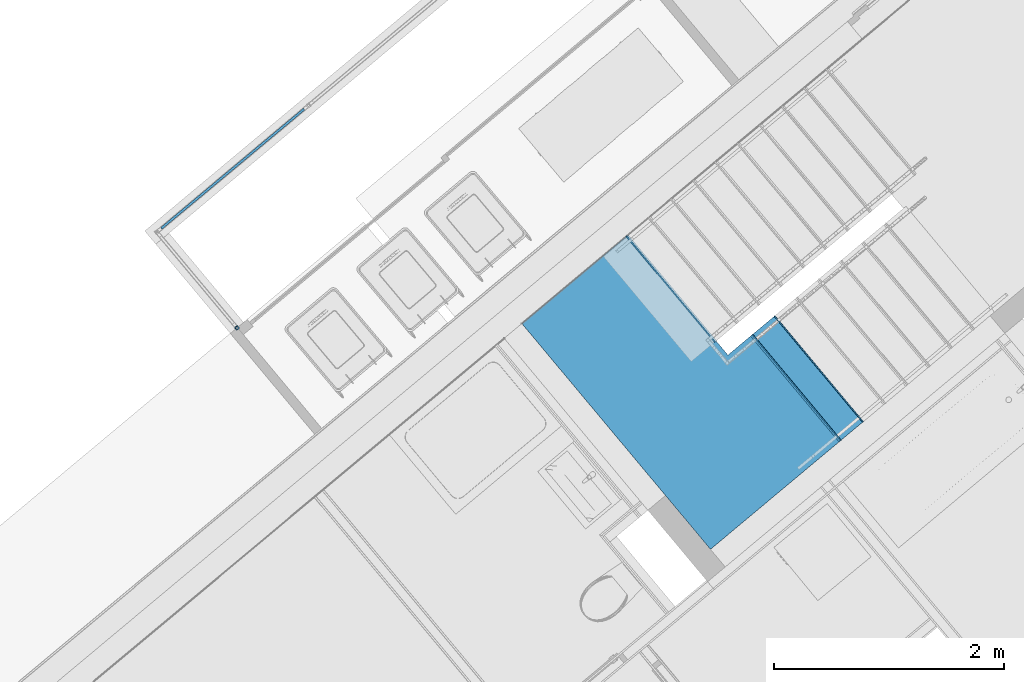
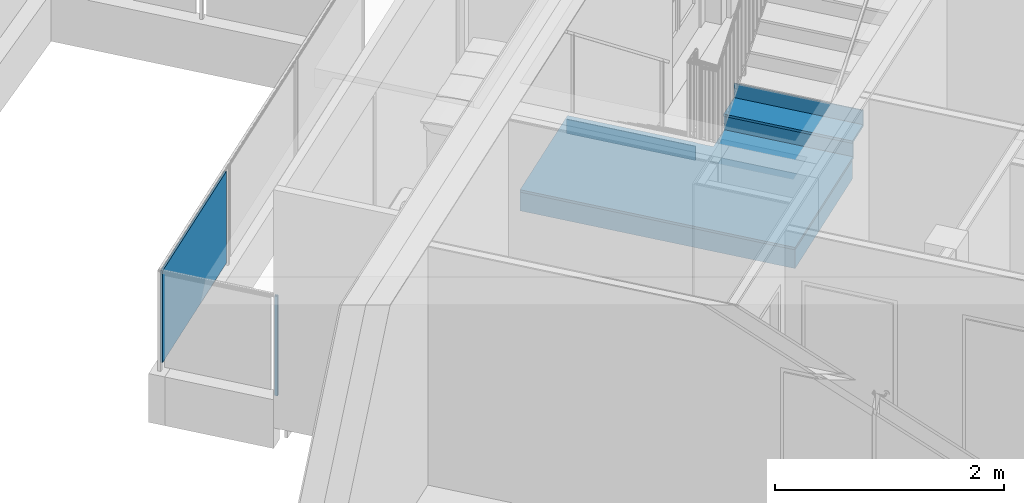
# One storey, part 31 of 67: 8 building element parts, 2 elements without a shape of their own.
"""IFC4 building model written with IfcOpenShell, lengths in metres."""

from ifc_helpers import new_model, entity, si_unit, converted_unit, derived_unit, direction, frame, origin_with_axes, place, context, subcontext, project, spatial, polygons, material, type_object, element, aggregate, save


model = new_model("IFC4")

# Units and contexts
model_context = context("Model", 3, precision=1e-05, world=origin_with_axes(), true_north=direction((0.0, 1.0)))
body_context = subcontext(model_context, "Body", "Model", "MODEL_VIEW")
ifc_project = project(units=[si_unit("LENGTHUNIT", "METRE"), si_unit("AREAUNIT", "SQUARE_METRE"), si_unit("VOLUMEUNIT", "CUBIC_METRE"), converted_unit("PLANEANGLEUNIT", "DEGREE", entity("IfcPlaneAngleMeasure", 0.0174532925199), si_unit("PLANEANGLEUNIT", "RADIAN"), dimensions=[0, 0, 0, 0, 0, 0, 0]), converted_unit("TIMEUNIT", "Year", entity("IfcTimeMeasure", 31556926.0), si_unit("TIMEUNIT", "SECOND"), dimensions=[0, 0, 1, 0, 0, 0, 0]), si_unit("MASSUNIT", "GRAM", prefix="KILO"), si_unit("THERMODYNAMICTEMPERATUREUNIT", "DEGREE_CELSIUS"), si_unit("LUMINOUSINTENSITYUNIT", "LUMEN"), si_unit("ENERGYUNIT", "JOULE", prefix="MEGA"), derived_unit("THERMALCONDUCTANCEUNIT", [(si_unit("POWERUNIT", "WATT"), 1), (si_unit("LENGTHUNIT", "METRE"), -1), (si_unit("THERMODYNAMICTEMPERATUREUNIT", "KELVIN"), -1)]), derived_unit("SPECIFICHEATCAPACITYUNIT", [(si_unit("ENERGYUNIT", "JOULE"), 1), (si_unit("MASSUNIT", "GRAM", prefix="KILO"), -1), (si_unit("THERMODYNAMICTEMPERATUREUNIT", "KELVIN"), -1)]), derived_unit("MASSDENSITYUNIT", [(si_unit("MASSUNIT", "GRAM", prefix="KILO"), 1), (si_unit("VOLUMEUNIT", "CUBIC_METRE"), -1)])], contexts=[model_context])

# Site, building, storey
site_placement = place(None, frame((-0.00153261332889, -0.00661245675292, 0.0), z_axis=(0.0, 0.0, 1.0), x_axis=(1.0, 0.0, 0.0)))
site = spatial("IfcSite", under=ifc_project, at=site_placement, Name="Site", CompositionType="ELEMENT")
building_placement = place(site_placement, origin_with_axes())
building = spatial("IfcBuilding", under=site, at=building_placement, Name="Building", CompositionType="ELEMENT")
storey_placement = place(building_placement, frame((0.0, 0.0, -0.22), z_axis=(0.0, 0.0, 1.0), x_axis=(1.0, 0.0, 0.0)))
storey = spatial("IfcBuildingStorey", under=building, at=storey_placement, Name="EG", CompositionType="ELEMENT", Elevation=-0.22)

# Stair, building element parts
stair_type = type_object("IfcStairType", Name="Treppentyp", PredefinedType="NOTDEFINED")
stair_placement = place(storey_placement, frame((-0.972083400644, 24.9200947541, 0.05), z_axis=(0.0, 0.0, 1.0), x_axis=(1.0, 0.0, 0.0)))
stair = element("IfcStair", 1, at=stair_placement, inside=storey, type_object=stair_type, Name="Treppe - 001", PredefinedType="NOTDEFINED")
ifc_material_1 = material(Name="Stahlbeton Decke")
building_element_part_1_placement = place(stair_placement, origin_with_axes())
building_element_part_1 = element("IfcBuildingElementPart", 2, at=building_element_part_1_placement, material=ifc_material_1, Name="Stahlbeton Decke", PredefinedType="NOTDEFINED", context=body_context, shape_type="Tessellation", body=[
    polygons([(-0.0995859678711, -3.41907180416, 1.54558823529), (-0.0995859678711, -3.41907180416, 1.74558823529), (-1.21798601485, -4.3536048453, 1.74558823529), (-1.21798601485, -4.3536048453, 1.54558823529), (-0.869037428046, -2.49823278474, 1.74558823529), (-0.869037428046, -2.49823278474, 1.54558823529), (-1.06659845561, -2.66331440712, 1.74558823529), (-1.16916165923, -2.5405721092, 1.74558823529), (-1.18404787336, -2.55300972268, 1.74558823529), (-1.95345217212, -1.63213131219, 1.74558823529), (-2.85949147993, -2.38913738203, 1.74558823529), (-2.85949147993, -2.38913738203, 1.54558823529), (-1.93419043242, -1.61603796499, 1.54558823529), (-1.16478618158, -2.53691636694, 1.54558823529), (-1.16916165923, -2.5405721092, 1.54558823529), (-1.06659845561, -2.66331440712, 1.54558823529), (-1.16916165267, -2.54057211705, 1.56852941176), (-1.18404787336, -2.55300972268, 1.56852941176), (-1.95345217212, -1.63213131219, 1.56852941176), (-1.93419043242, -1.61603796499, 1.56852941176), (-1.16478618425, -2.53691636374, 1.56852941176)], [[[1, 2, 3, 4]], [[5, 2, 1, 6]], [[2, 5, 7, 8, 9, 10, 11, 3]], [[3, 11, 12, 4]], [[6, 1, 4, 12, 13, 14, 15, 16]], [[5, 6, 16, 7]], [[8, 7, 16, 15, 17]], [[8, 17, 18, 9]], [[18, 19, 10, 9]], [[13, 12, 11, 10, 19, 20]], [[14, 13, 20, 21]], [[21, 17, 15, 14]], [[20, 19, 18, 17, 21]]], closed=True),
])
ifc_material_2 = material(Name="BEKLEIDUNG")
building_element_part_2_placement = place(stair_placement, origin_with_axes())
building_element_part_2 = element("IfcBuildingElementPart", 3, at=building_element_part_2_placement, material=ifc_material_2, Name="BEKLEIDUNG", PredefinedType="NOTDEFINED", context=body_context, shape_type="Tessellation", body=[
    polygons([(-1.94570143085, -1.62565549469, 1.74558823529), (-1.95337541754, -1.63206719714, 1.74558823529), (-1.18397112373, -2.55294559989, 1.74558823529), (-1.17629713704, -2.54653389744, 1.74558823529), (-1.94570143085, -1.62565549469, 1.59352941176), (-1.95337541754, -1.63206719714, 1.59352941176), (-1.18397112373, -2.55294559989, 1.59352941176), (-1.17629713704, -2.54653389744, 1.59352941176)], [[[1, 2, 3, 4]], [[1, 5, 6, 2]], [[2, 6, 7, 3]], [[4, 3, 7, 8]], [[5, 1, 4, 8]], [[6, 5, 8, 7]]], closed=True),
])
building_element_part_3_placement = place(stair_placement, origin_with_axes())
building_element_part_3 = element("IfcBuildingElementPart", 4, at=building_element_part_3_placement, material=ifc_material_2, Name="BEKLEIDUNG", PredefinedType="NOTDEFINED", context=body_context, shape_type="Tessellation", body=[
    polygons([(-0.0880754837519, -3.40945364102, 1.92264705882), (-0.0804018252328, -3.40304154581, 1.92264705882), (-0.849853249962, -2.48220252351, 1.92264705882), (-0.857526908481, -2.48861461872, 1.92264705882), (-0.0880754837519, -3.40945364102, 1.77058823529), (-0.0804018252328, -3.40304154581, 1.77058823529), (-0.849853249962, -2.48220252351, 1.77058823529), (-0.857526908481, -2.48861461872, 1.77058823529)], [[[1, 2, 3, 4]], [[1, 5, 6, 2]], [[2, 6, 7, 3]], [[4, 3, 7, 8]], [[5, 1, 4, 8]], [[6, 5, 8, 7]]], closed=True),
])
building_element_part_4_placement = place(stair_placement, origin_with_axes())
building_element_part_4 = element("IfcBuildingElementPart", 5, at=building_element_part_4_placement, material=ifc_material_2, Name="BEKLEIDUNG", PredefinedType="NOTDEFINED", context=body_context, shape_type="Tessellation", body=[
    polygons([(0.105063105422, -3.24806738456, 2.09970588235), (0.112736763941, -3.24165528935, 2.09970588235), (-0.656714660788, -2.32081626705, 2.09970588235), (-0.664388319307, -2.32722836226, 2.09970588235), (0.105063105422, -3.24806738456, 1.94764705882), (0.112736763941, -3.24165528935, 1.94764705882), (-0.656714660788, -2.32081626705, 1.94764705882), (-0.664388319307, -2.32722836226, 1.94764705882)], [[[1, 2, 3, 4]], [[1, 5, 6, 2]], [[2, 6, 7, 3]], [[4, 3, 7, 8]], [[5, 1, 4, 8]], [[6, 5, 8, 7]]], closed=True),
])
building_element_part_5_placement = place(stair_placement, origin_with_axes())
building_element_part_5 = element("IfcBuildingElementPart", 6, at=building_element_part_5_placement, material=ifc_material_2, Name="BEKLEIDUNG", PredefinedType="NOTDEFINED", context=body_context, shape_type="Tessellation", body=[
    polygons([(-2.85949147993, -2.38913737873, 1.74558823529), (-1.2179860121, -4.3536048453, 1.74558823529), (-1.2179860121, -4.3536048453, 1.77058823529), (-2.85949147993, -2.38913737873, 1.77058823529), (-1.93419043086, -1.6160379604, 1.74558823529), (-1.16478613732, -2.53691636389, 1.74558823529), (-1.16916165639, -2.54057210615, 1.74558823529), (-1.06659841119, -2.66331440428, 1.74558823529), (-1.06217597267, -2.65961903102, 1.74558823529), (-0.849853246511, -2.48220251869, 1.74558823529), (-0.080401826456, -3.40304153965, 1.74558823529), (-0.292724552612, -3.58045805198, 1.74558823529), (-0.292724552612, -3.58045805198, 1.77058823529), (-0.080401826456, -3.40304153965, 1.77058823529), (-0.849853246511, -2.48220251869, 1.77058823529), (-1.06217597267, -2.65961903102, 1.77058823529), (-1.06659841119, -2.66331440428, 1.77058823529), (-1.16916165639, -2.54057210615, 1.77058823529), (-1.16478613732, -2.53691636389, 1.77058823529), (-1.93419043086, -1.6160379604, 1.77058823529)], [[[1, 2, 3, 4]], [[1, 5, 6, 7, 8, 9, 10, 11, 12, 2]], [[2, 12, 13, 3]], [[4, 3, 13, 14, 15, 16, 17, 18, 19, 20]], [[5, 1, 4, 20]], [[6, 5, 20, 19]], [[7, 6, 19, 18]], [[8, 7, 18, 17]], [[9, 8, 17, 16]], [[10, 9, 16, 15]], [[11, 10, 15, 14]], [[12, 11, 14, 13]]], closed=True),
])
building_element_part_6_placement = place(stair_placement, origin_with_axes())
building_element_part_6 = element("IfcBuildingElementPart", 7, at=building_element_part_6_placement, material=ifc_material_2, Name="BEKLEIDUNG", PredefinedType="NOTDEFINED", context=body_context, shape_type="Tessellation", body=[
    polygons([(-0.869037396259, -2.49823276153, 1.92264705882), (-0.0995859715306, -3.41907178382, 1.92264705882), (-0.0995859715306, -3.41907178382, 1.94764705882), (-0.869037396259, -2.49823276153, 1.94764705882), (-0.656714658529, -2.32081626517, 1.92264705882), (0.112736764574, -3.24165528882, 1.92264705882), (0.112736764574, -3.24165528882, 1.94764705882), (-0.656714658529, -2.32081626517, 1.94764705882)], [[[1, 2, 3, 4]], [[1, 5, 6, 2]], [[2, 6, 7, 3]], [[4, 3, 7, 8]], [[5, 1, 4, 8]], [[6, 5, 8, 7]]], closed=True),
])
aggregate(stair, [building_element_part_1, building_element_part_2, building_element_part_3, building_element_part_4, building_element_part_5, building_element_part_6])

# Railing, building element parts
railing_type = type_object("IfcRailingType", Name="Geländerart", PredefinedType="NOTDEFINED")
railing_placement = place(storey_placement, frame((-6.36726458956, 22.4448248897, 0.523948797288), z_axis=(0.0, 0.0, 1.0), x_axis=(1.0, 0.0, 0.0)))
railing = element("IfcRailing", 8, at=railing_placement, inside=storey, type_object=railing_type, Name="Geländer - 001", PredefinedType="NOTDEFINED")
ifc_material_3 = material(Name="Aluminium")
building_element_part_7_placement = place(railing_placement, origin_with_axes())
building_element_part_7 = element("IfcBuildingElementPart", 9, at=building_element_part_7_placement, material=ifc_material_3, Name="Aluminium", PredefinedType="NOTDEFINED", context=body_context, shape_type="Tessellation", body=[
    polygons([(0.059444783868, 0.0692193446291, 0.0), (0.0364238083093, 0.0499830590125, 0.0), (0.0364238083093, 0.0499830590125, 1.06), (0.059444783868, 0.0692193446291, 1.06), (0.0786810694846, 0.0461983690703, 0.0), (0.0556600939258, 0.0269620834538, 0.0), (0.058814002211, 0.0621764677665, 0.0), (0.0434666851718, 0.0493522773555, 0.0), (0.0562908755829, 0.0340049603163, 0.0), (0.0716381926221, 0.0468291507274, 0.0), (0.0556600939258, 0.0269620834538, 1.06), (0.0786810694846, 0.0461983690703, 1.06), (0.058814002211, 0.0621764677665, 1.06), (0.0716381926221, 0.0468291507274, 1.06), (0.0562908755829, 0.0340049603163, 1.06), (0.0434666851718, 0.0493522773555, 1.06)], [[[1, 2, 3, 4]], [[1, 5, 6, 2], [7, 8, 9, 10]], [[2, 6, 11, 3]], [[4, 3, 11, 12], [13, 14, 15, 16]], [[5, 1, 4, 12]], [[6, 5, 12, 11]], [[8, 7, 13, 16]], [[9, 8, 16, 15]], [[10, 9, 15, 14]], [[7, 10, 14, 13]]], closed=True),
])
ifc_material_4 = material(Name="Zaun")
building_element_part_8_placement = place(railing_placement, origin_with_axes())
building_element_part_8 = element("IfcBuildingElementPart", 10, at=building_element_part_8_placement, material=ifc_material_4, Name="Zaun", PredefinedType="NOTDEFINED", context=body_context, shape_type="Tessellation", body=[
    polygons([(0.634958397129, 1.95980683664, 0.05), (-0.60755138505, 0.922033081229, 0.05), (-0.60755138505, 0.922033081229, 1.03), (0.634958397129, 1.95980683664, 1.03), (-0.594730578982, 0.906682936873, 0.05), (0.647779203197, 1.94445669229, 0.05), (-0.594730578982, 0.906682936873, 1.03), (0.647779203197, 1.94445669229, 1.03)], [[[1, 2, 3, 4]], [[5, 2, 1, 6]], [[7, 3, 2, 5]], [[4, 3, 7, 8]], [[1, 4, 8, 6]], [[7, 5, 6, 8]]], closed=True),
])
aggregate(railing, [building_element_part_7, building_element_part_8])

save(model, "model.ifc")
